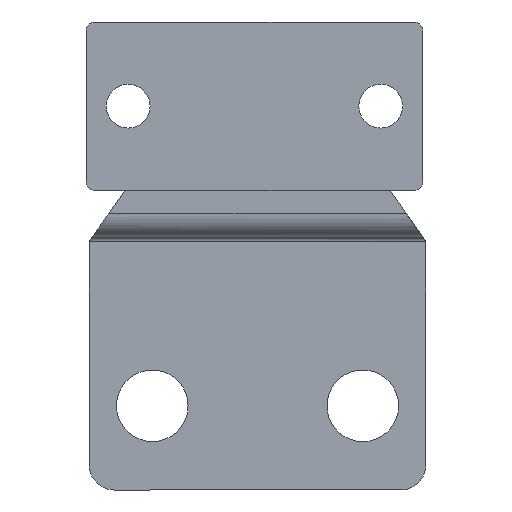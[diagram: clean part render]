
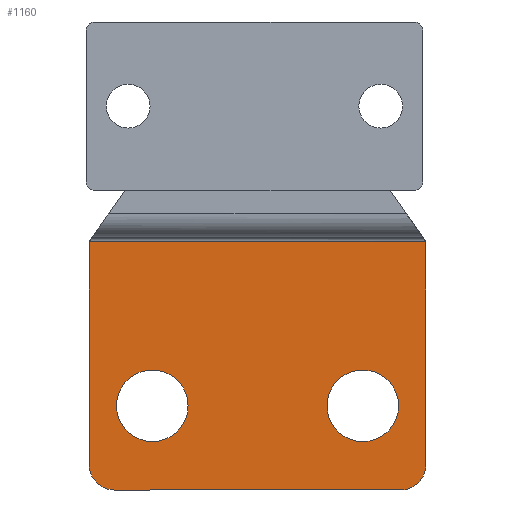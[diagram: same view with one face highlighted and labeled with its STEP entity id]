
A CAD part, left-side view. The second image highlights one B-rep face of the part: STEP entity #1160.
In plain terms, the highlighted planar face has unit normal (-1, 0, 0).
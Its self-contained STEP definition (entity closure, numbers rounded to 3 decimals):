
#68 = VERTEX_POINT ( 'NONE', #297 ) ;
#90 = CARTESIAN_POINT ( 'NONE',  ( -47.53, -147.784, -42.583 ) ) ;
#132 = DIRECTION ( 'NONE',  ( 0., 0., 1. ) ) ;
#135 = FACE_BOUND ( 'NONE', #1119, .T. ) ;
#137 = DIRECTION ( 'NONE',  ( 1., 0., 0. ) ) ;
#141 = EDGE_CURVE ( 'NONE', #537, #1067, #1838, .T. ) ;
#149 = CARTESIAN_POINT ( 'NONE',  ( -47.53, -148.034, -35.583 ) ) ;
#151 = DIRECTION ( 'NONE',  ( 0., 1., 0. ) ) ;
#169 = ORIENTED_EDGE ( 'NONE', *, *, #1455, .F. ) ;
#172 = DIRECTION ( 'NONE',  ( 0., 0., 1. ) ) ;
#180 = DIRECTION ( 'NONE',  ( 0., 1., 0. ) ) ;
#185 = CARTESIAN_POINT ( 'NONE',  ( -47.53, -152.284, -35.583 ) ) ;
#194 = AXIS2_PLACEMENT_3D ( 'NONE', #90, #1270, #1079 ) ;
#209 = LINE ( 'NONE', #1726, #605 ) ;
#226 = DIRECTION ( 'NONE',  ( 1., 0., 0. ) ) ;
#284 = CIRCLE ( 'NONE', #194, 3. ) ;
#297 = CARTESIAN_POINT ( 'NONE',  ( -47.53, -184.784, -42.583 ) ) ;
#307 = DIRECTION ( 'NONE',  ( 0., -0.574, 0.819 ) ) ;
#367 = VERTEX_POINT ( 'NONE', #429 ) ;
#388 = DIRECTION ( 'NONE',  ( 1., 0., 0. ) ) ;
#390 = VECTOR ( 'NONE', #307, 1000. ) ;
#416 = EDGE_CURVE ( 'NONE', #68, #1801, #2089, .T. ) ;
#429 = CARTESIAN_POINT ( 'NONE',  ( -47.53, -173.034, -35.583 ) ) ;
#531 = CARTESIAN_POINT ( 'NONE',  ( -47.53, -184.784, -18.698 ) ) ;
#537 = VERTEX_POINT ( 'NONE', #1107 ) ;
#574 = CARTESIAN_POINT ( 'NONE',  ( -47.53, -177.284, -35.583 ) ) ;
#605 = VECTOR ( 'NONE', #1750, 1000. ) ;
#613 = CARTESIAN_POINT ( 'NONE',  ( -47.53, -184.769, -16.083 ) ) ;
#643 = ORIENTED_EDGE ( 'NONE', *, *, #141, .F. ) ;
#651 = EDGE_LOOP ( 'NONE', ( #855, #2260 ) ) ;
#699 = EDGE_CURVE ( 'NONE', #1990, #2354, #1254, .T. ) ;
#706 = CARTESIAN_POINT ( 'NONE',  ( -47.53, -184.784, -16.105 ) ) ;
#724 = DIRECTION ( 'NONE',  ( -1., 0., 0. ) ) ;
#751 = CARTESIAN_POINT ( 'NONE',  ( -47.53, -144.799, -16.083 ) ) ;
#772 = CIRCLE ( 'NONE', #2173, 4.25 ) ;
#834 = LINE ( 'NONE', #1839, #1814 ) ;
#839 = ORIENTED_EDGE ( 'NONE', *, *, #2042, .F. ) ;
#855 = ORIENTED_EDGE ( 'NONE', *, *, #2407, .T. ) ;
#905 = VERTEX_POINT ( 'NONE', #613 ) ;
#916 = PLANE ( 'NONE',  #1730 ) ;
#949 = ORIENTED_EDGE ( 'NONE', *, *, #1206, .F. ) ;
#961 = CARTESIAN_POINT ( 'NONE',  ( -47.53, -144.784, -42.583 ) ) ;
#967 = AXIS2_PLACEMENT_3D ( 'NONE', #1594, #226, #1406 ) ;
#974 = LINE ( 'NONE', #2509, #2412 ) ;
#993 = ORIENTED_EDGE ( 'NONE', *, *, #2317, .T. ) ;
#1049 = ORIENTED_EDGE ( 'NONE', *, *, #1632, .T. ) ;
#1067 = VERTEX_POINT ( 'NONE', #751 ) ;
#1079 = DIRECTION ( 'NONE',  ( 0., 0., -1. ) ) ;
#1107 = CARTESIAN_POINT ( 'NONE',  ( -47.53, -144.784, -16.105 ) ) ;
#1108 = VERTEX_POINT ( 'NONE', #2434 ) ;
#1112 = LINE ( 'NONE', #531, #1493 ) ;
#1119 = EDGE_LOOP ( 'NONE', ( #993, #1875 ) ) ;
#1145 = VECTOR ( 'NONE', #180, 1000. ) ;
#1160 = ADVANCED_FACE ( 'NONE', ( #1704, #1908, #135 ), #916, .T. ) ;
#1172 = DIRECTION ( 'NONE',  ( 0., 1., 0. ) ) ;
#1206 = EDGE_CURVE ( 'NONE', #905, #1808, #209, .T. ) ;
#1253 = CARTESIAN_POINT ( 'NONE',  ( -47.53, -181.784, -45.583 ) ) ;
#1254 = CIRCLE ( 'NONE', #1483, 4.25 ) ;
#1261 = AXIS2_PLACEMENT_3D ( 'NONE', #185, #2064, #2075 ) ;
#1270 = DIRECTION ( 'NONE',  ( 1., 0., 0. ) ) ;
#1313 = EDGE_CURVE ( 'NONE', #1108, #367, #2059, .T. ) ;
#1355 = CARTESIAN_POINT ( 'NONE',  ( -47.53, -177.284, -35.583 ) ) ;
#1363 = CARTESIAN_POINT ( 'NONE',  ( -47.53, -145.149, -16.083 ) ) ;
#1406 = DIRECTION ( 'NONE',  ( 0., 1., 0. ) ) ;
#1425 = DIRECTION ( 'NONE',  ( 0., 1., 0. ) ) ;
#1455 = EDGE_CURVE ( 'NONE', #1801, #1705, #834, .T. ) ;
#1483 = AXIS2_PLACEMENT_3D ( 'NONE', #2450, #2490, #151 ) ;
#1493 = VECTOR ( 'NONE', #132, 1000. ) ;
#1500 = EDGE_CURVE ( 'NONE', #68, #1808, #1112, .T. ) ;
#1546 = DIRECTION ( 'NONE',  ( 0., 0., 1. ) ) ;
#1594 = CARTESIAN_POINT ( 'NONE',  ( -47.53, -181.784, -42.583 ) ) ;
#1632 = EDGE_CURVE ( 'NONE', #905, #1067, #2307, .T. ) ;
#1704 = FACE_OUTER_BOUND ( 'NONE', #1922, .T. ) ;
#1705 = VERTEX_POINT ( 'NONE', #2498 ) ;
#1713 = ORIENTED_EDGE ( 'NONE', *, *, #1500, .T. ) ;
#1726 = CARTESIAN_POINT ( 'NONE',  ( -47.53, -185.009, -16.425 ) ) ;
#1730 = AXIS2_PLACEMENT_3D ( 'NONE', #2445, #724, #172 ) ;
#1750 = DIRECTION ( 'NONE',  ( 0., -0.574, -0.819 ) ) ;
#1801 = VERTEX_POINT ( 'NONE', #1253 ) ;
#1808 = VERTEX_POINT ( 'NONE', #706 ) ;
#1814 = VECTOR ( 'NONE', #1425, 1000. ) ;
#1838 = LINE ( 'NONE', #2416, #390 ) ;
#1839 = CARTESIAN_POINT ( 'NONE',  ( -47.53, -184.784, -45.583 ) ) ;
#1849 = ORIENTED_EDGE ( 'NONE', *, *, #416, .F. ) ;
#1875 = ORIENTED_EDGE ( 'NONE', *, *, #1313, .T. ) ;
#1901 = EDGE_CURVE ( 'NONE', #1705, #2041, #284, .T. ) ;
#1908 = FACE_BOUND ( 'NONE', #651, .T. ) ;
#1922 = EDGE_LOOP ( 'NONE', ( #949, #1049, #643, #839, #2382, #169, #1849, #1713 ) ) ;
#1937 = CIRCLE ( 'NONE', #1261, 4.25 ) ;
#1942 = CARTESIAN_POINT ( 'NONE',  ( -47.53, -156.534, -35.583 ) ) ;
#1990 = VERTEX_POINT ( 'NONE', #1942 ) ;
#2041 = VERTEX_POINT ( 'NONE', #961 ) ;
#2042 = EDGE_CURVE ( 'NONE', #2041, #537, #974, .T. ) ;
#2059 = CIRCLE ( 'NONE', #2458, 4.25 ) ;
#2064 = DIRECTION ( 'NONE',  ( 1., 0., 0. ) ) ;
#2075 = DIRECTION ( 'NONE',  ( 0., 1., 0. ) ) ;
#2089 = CIRCLE ( 'NONE', #967, 3. ) ;
#2173 = AXIS2_PLACEMENT_3D ( 'NONE', #574, #137, #2261 ) ;
#2260 = ORIENTED_EDGE ( 'NONE', *, *, #699, .T. ) ;
#2261 = DIRECTION ( 'NONE',  ( 0., 1., 0. ) ) ;
#2307 = LINE ( 'NONE', #1363, #1145 ) ;
#2317 = EDGE_CURVE ( 'NONE', #367, #1108, #772, .T. ) ;
#2354 = VERTEX_POINT ( 'NONE', #149 ) ;
#2382 = ORIENTED_EDGE ( 'NONE', *, *, #1901, .F. ) ;
#2407 = EDGE_CURVE ( 'NONE', #2354, #1990, #1937, .T. ) ;
#2412 = VECTOR ( 'NONE', #1546, 1000. ) ;
#2416 = CARTESIAN_POINT ( 'NONE',  ( -47.53, -157.719, 2.368 ) ) ;
#2434 = CARTESIAN_POINT ( 'NONE',  ( -47.53, -181.534, -35.583 ) ) ;
#2445 = CARTESIAN_POINT ( 'NONE',  ( -47.53, -184.784, -16.583 ) ) ;
#2450 = CARTESIAN_POINT ( 'NONE',  ( -47.53, -152.284, -35.583 ) ) ;
#2458 = AXIS2_PLACEMENT_3D ( 'NONE', #1355, #388, #1172 ) ;
#2490 = DIRECTION ( 'NONE',  ( 1., 0., 0. ) ) ;
#2498 = CARTESIAN_POINT ( 'NONE',  ( -47.53, -147.784, -45.583 ) ) ;
#2509 = CARTESIAN_POINT ( 'NONE',  ( -47.53, -144.784, -18.698 ) ) ;
